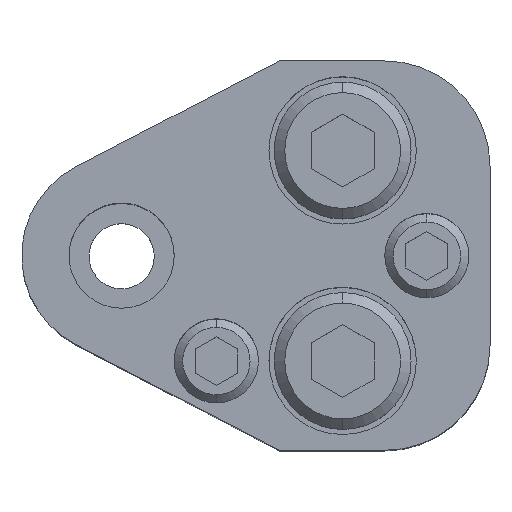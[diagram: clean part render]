
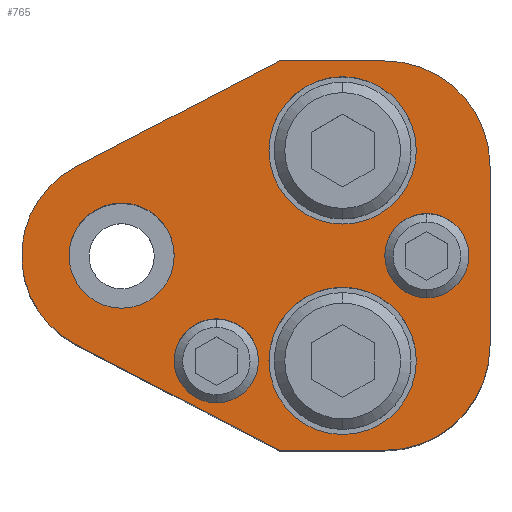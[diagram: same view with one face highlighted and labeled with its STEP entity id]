
A CAD part, top view. The second image highlights one B-rep face of the part: STEP entity #765.
In plain terms, the highlighted planar face has unit normal (0, 0, 1).
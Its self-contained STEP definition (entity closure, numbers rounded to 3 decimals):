
#144=FACE_BOUND('',#1151,.T.);
#145=FACE_BOUND('',#1152,.T.);
#146=FACE_BOUND('',#1153,.T.);
#147=FACE_BOUND('',#1154,.T.);
#148=FACE_BOUND('',#1155,.T.);
#149=FACE_BOUND('',#1156,.T.);
#352=LINE('',#4212,#556);
#357=LINE('',#4227,#561);
#360=LINE('',#4233,#564);
#365=LINE('',#4246,#569);
#377=LINE('',#4305,#581);
#384=LINE('',#4326,#588);
#556=VECTOR('',#3390,1.);
#561=VECTOR('',#3403,1.);
#564=VECTOR('',#3408,1.);
#569=VECTOR('',#3421,1.);
#581=VECTOR('',#3487,1.);
#588=VECTOR('',#3506,1.);
#765=ADVANCED_FACE('',(#144,#145,#146,#147,#148,#149),#863,.T.);
#863=PLANE('',#2873);
#1151=EDGE_LOOP('',(#1689,#1690,#1691,#1692,#1693,#1694,#1695,#1696,#1697));
#1152=EDGE_LOOP('',(#1698,#1699));
#1153=EDGE_LOOP('',(#1700,#1701));
#1154=EDGE_LOOP('',(#1702,#1703));
#1155=EDGE_LOOP('',(#1704,#1705));
#1156=EDGE_LOOP('',(#1706,#1707));
#1689=ORIENTED_EDGE('',*,*,#2341,.T.);
#1690=ORIENTED_EDGE('',*,*,#2345,.T.);
#1691=ORIENTED_EDGE('',*,*,#2348,.T.);
#1692=ORIENTED_EDGE('',*,*,#2386,.T.);
#1693=ORIENTED_EDGE('',*,*,#2400,.T.);
#1694=ORIENTED_EDGE('',*,*,#2397,.T.);
#1695=ORIENTED_EDGE('',*,*,#2351,.T.);
#1696=ORIENTED_EDGE('',*,*,#2355,.T.);
#1697=ORIENTED_EDGE('',*,*,#2358,.T.);
#1698=ORIENTED_EDGE('',*,*,#2404,.F.);
#1699=ORIENTED_EDGE('',*,*,#2405,.F.);
#1700=ORIENTED_EDGE('',*,*,#2406,.F.);
#1701=ORIENTED_EDGE('',*,*,#2407,.F.);
#1702=ORIENTED_EDGE('',*,*,#2381,.F.);
#1703=ORIENTED_EDGE('',*,*,#2377,.F.);
#1704=ORIENTED_EDGE('',*,*,#2375,.F.);
#1705=ORIENTED_EDGE('',*,*,#2371,.F.);
#1706=ORIENTED_EDGE('',*,*,#2408,.T.);
#1707=ORIENTED_EDGE('',*,*,#2409,.T.);
#2045=VERTEX_POINT('',#4211);
#2046=VERTEX_POINT('',#4213);
#2049=VERTEX_POINT('',#4220);
#2051=VERTEX_POINT('',#4226);
#2053=VERTEX_POINT('',#4232);
#2054=VERTEX_POINT('',#4234);
#2057=VERTEX_POINT('',#4241);
#2066=VERTEX_POINT('',#4273);
#2067=VERTEX_POINT('',#4274);
#2070=VERTEX_POINT('',#4286);
#2071=VERTEX_POINT('',#4287);
#2077=VERTEX_POINT('',#4304);
#2086=VERTEX_POINT('',#4327);
#2089=VERTEX_POINT('',#4345);
#2090=VERTEX_POINT('',#4346);
#2091=VERTEX_POINT('',#4349);
#2092=VERTEX_POINT('',#4350);
#2093=VERTEX_POINT('',#4353);
#2094=VERTEX_POINT('',#4354);
#2341=EDGE_CURVE('',#2046,#2045,#352,.T.);
#2345=EDGE_CURVE('',#2045,#2049,#2589,.T.);
#2348=EDGE_CURVE('',#2049,#2051,#357,.T.);
#2351=EDGE_CURVE('',#2054,#2053,#360,.T.);
#2355=EDGE_CURVE('',#2053,#2057,#2591,.T.);
#2358=EDGE_CURVE('',#2057,#2046,#365,.T.);
#2371=EDGE_CURVE('',#2066,#2067,#2601,.T.);
#2375=EDGE_CURVE('',#2067,#2066,#2603,.T.);
#2377=EDGE_CURVE('',#2070,#2071,#2605,.T.);
#2381=EDGE_CURVE('',#2071,#2070,#2607,.T.);
#2386=EDGE_CURVE('',#2051,#2077,#377,.T.);
#2397=EDGE_CURVE('',#2086,#2054,#384,.T.);
#2400=EDGE_CURVE('',#2077,#2086,#2614,.T.);
#2404=EDGE_CURVE('',#2089,#2090,#2615,.T.);
#2405=EDGE_CURVE('',#2090,#2089,#2616,.T.);
#2406=EDGE_CURVE('',#2091,#2092,#2617,.T.);
#2407=EDGE_CURVE('',#2092,#2091,#2618,.T.);
#2408=EDGE_CURVE('',#2093,#2094,#2619,.T.);
#2409=EDGE_CURVE('',#2094,#2093,#2620,.T.);
#2589=CIRCLE('',#2821,10.);
#2591=CIRCLE('',#2826,10.);
#2601=CIRCLE('',#2842,7.);
#2603=CIRCLE('',#2845,7.);
#2605=CIRCLE('',#2849,7.);
#2607=CIRCLE('',#2852,7.);
#2614=CIRCLE('',#2864,9.5);
#2615=CIRCLE('',#2867,4.);
#2616=CIRCLE('',#2868,4.);
#2617=CIRCLE('',#2869,4.);
#2618=CIRCLE('',#2870,4.);
#2619=CIRCLE('',#2871,5.);
#2620=CIRCLE('',#2872,5.);
#2821=AXIS2_PLACEMENT_3D('',#4221,#3396,#3397);
#2826=AXIS2_PLACEMENT_3D('',#4242,#3414,#3415);
#2842=AXIS2_PLACEMENT_3D('',#4272,#3452,#3453);
#2845=AXIS2_PLACEMENT_3D('',#4281,#3460,#3461);
#2849=AXIS2_PLACEMENT_3D('',#4285,#3468,#3469);
#2852=AXIS2_PLACEMENT_3D('',#4294,#3476,#3477);
#2864=AXIS2_PLACEMENT_3D('',#4331,#3512,#3513);
#2867=AXIS2_PLACEMENT_3D('',#4344,#3520,#3521);
#2868=AXIS2_PLACEMENT_3D('',#4347,#3522,#3523);
#2869=AXIS2_PLACEMENT_3D('',#4348,#3524,#3525);
#2870=AXIS2_PLACEMENT_3D('',#4351,#3526,#3527);
#2871=AXIS2_PLACEMENT_3D('',#4352,#3528,#3529);
#2872=AXIS2_PLACEMENT_3D('',#4355,#3530,#3531);
#2873=AXIS2_PLACEMENT_3D('',#4356,#3532,#3533);
#3390=DIRECTION('',(0.,1.,0.));
#3396=DIRECTION('',(0.,0.,1.));
#3397=DIRECTION('',(-0.707,-0.707,0.));
#3403=DIRECTION('',(-1.,0.,0.));
#3408=DIRECTION('',(1.,0.,0.));
#3414=DIRECTION('',(0.,0.,1.));
#3415=DIRECTION('',(-0.707,0.707,0.));
#3421=DIRECTION('',(0.,1.,0.));
#3452=DIRECTION('',(0.,0.,1.));
#3453=DIRECTION('',(-1.,0.,0.));
#3460=DIRECTION('',(0.,0.,1.));
#3461=DIRECTION('',(1.,0.,0.));
#3468=DIRECTION('',(0.,0.,1.));
#3469=DIRECTION('',(-1.,0.,0.));
#3476=DIRECTION('',(0.,0.,1.));
#3477=DIRECTION('',(1.,0.,0.));
#3487=DIRECTION('',(-0.887,-0.461,0.));
#3506=DIRECTION('',(0.887,-0.461,0.));
#3512=DIRECTION('',(0.,0.,1.));
#3513=DIRECTION('',(1.,0.,0.));
#3520=DIRECTION('',(0.,0.,1.));
#3521=DIRECTION('',(1.,0.,0.));
#3522=DIRECTION('',(0.,0.,1.));
#3523=DIRECTION('',(-1.,0.,0.));
#3524=DIRECTION('',(0.,0.,1.));
#3525=DIRECTION('',(1.,0.,0.));
#3526=DIRECTION('',(0.,0.,1.));
#3527=DIRECTION('',(-1.,0.,0.));
#3528=DIRECTION('',(0.,0.,-1.));
#3529=DIRECTION('',(-1.,0.,0.));
#3530=DIRECTION('',(0.,0.,-1.));
#3531=DIRECTION('',(1.,0.,0.));
#3532=DIRECTION('',(0.,0.,1.));
#3533=DIRECTION('',(0.,-1.,0.));
#4211=CARTESIAN_POINT('',(35.,8.5,40.));
#4212=CARTESIAN_POINT('',(35.,8.5,40.));
#4213=CARTESIAN_POINT('',(35.,0.,40.));
#4220=CARTESIAN_POINT('',(25.,18.5,40.));
#4221=CARTESIAN_POINT('',(25.,8.5,40.));
#4226=CARTESIAN_POINT('',(15.,18.5,40.));
#4227=CARTESIAN_POINT('',(15.,18.5,40.));
#4232=CARTESIAN_POINT('',(25.,-18.5,40.));
#4233=CARTESIAN_POINT('',(15.,-18.5,40.));
#4234=CARTESIAN_POINT('',(15.,-18.5,40.));
#4241=CARTESIAN_POINT('',(35.,-8.5,40.));
#4242=CARTESIAN_POINT('',(25.,-8.5,40.));
#4246=CARTESIAN_POINT('',(35.,-8.5,40.));
#4272=CARTESIAN_POINT('',(21.,-10.,40.));
#4273=CARTESIAN_POINT('',(21.,-17.,40.));
#4274=CARTESIAN_POINT('',(21.,-3.,40.));
#4281=CARTESIAN_POINT('',(21.,-10.,40.));
#4285=CARTESIAN_POINT('',(21.,10.,40.));
#4286=CARTESIAN_POINT('',(21.,3.,40.));
#4287=CARTESIAN_POINT('',(21.,17.,40.));
#4294=CARTESIAN_POINT('',(21.,10.,40.));
#4304=CARTESIAN_POINT('',(-4.38,8.43,40.));
#4305=CARTESIAN_POINT('',(15.,18.5,40.));
#4326=CARTESIAN_POINT('',(15.,-18.5,40.));
#4327=CARTESIAN_POINT('',(-4.38,-8.43,40.));
#4331=CARTESIAN_POINT('',(0.,0.,40.));
#4344=CARTESIAN_POINT('',(29.,0.,40.));
#4345=CARTESIAN_POINT('',(29.,4.,40.));
#4346=CARTESIAN_POINT('',(29.,-4.,40.));
#4347=CARTESIAN_POINT('',(29.,0.,40.));
#4348=CARTESIAN_POINT('',(9.,-10.,40.));
#4349=CARTESIAN_POINT('',(9.,-6.,40.));
#4350=CARTESIAN_POINT('',(9.,-14.,40.));
#4351=CARTESIAN_POINT('',(9.,-10.,40.));
#4352=CARTESIAN_POINT('',(0.,0.,40.));
#4353=CARTESIAN_POINT('',(0.,5.,40.));
#4354=CARTESIAN_POINT('',(0.,-5.,40.));
#4355=CARTESIAN_POINT('',(0.,0.,40.));
#4356=CARTESIAN_POINT('',(35.,0.,40.));
